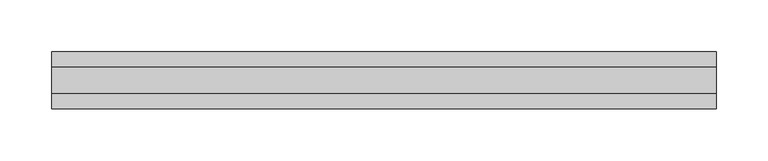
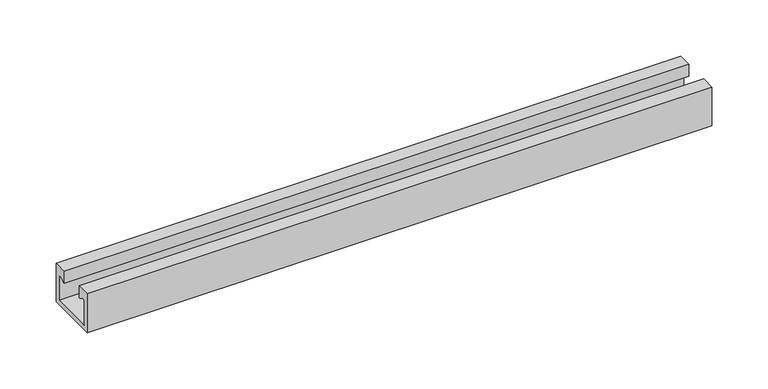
"""IFC4 building model written with IfcOpenShell, lengths in millimetres: fastener geometry, JM W JORDAHL® Mounting Channels : JM W55/42 - L."""

from ifc_helpers import new_model, si_unit, frame, origin, place, context, project, spatial, polyline, outline, extrude, source, transform, mapped, element, save


def fastener_e8fbbafe(model_context):
    return source(origin(), model_context, "Body", "SweptSolid", [
        extrude(outline(polyline([(-13.0, 42.0), (-13.0, 29.1), (-14.0, 29.1), (-19.0229473, 32.0), (-22.5, 32.0), (-22.5, 5.0), (22.5, 5.0), (22.5, 32.0), (19.0229473, 32.0), (14.0, 29.1), (13.0, 29.1), (13.0, 42.0), (27.5, 42.0), (27.5, 0.0), (-27.5, 0.0), (-27.5, 42.0), (-13.0, 42.0)])), frame((0.0, 0.0, 0.0), z_axis=(1.0, 0.0, 0.0), x_axis=(0.0, 1.0, 0.0)), (0.0, 0.0, 1.0), 640.0),
    ])


if __name__ == "__main__":
    model = new_model("IFC4")
    model_context = context("Model", 3, world=origin())
    ifc_project = project(units=[si_unit("LENGTHUNIT", "METRE", prefix="MILLI")], contexts=[model_context])
    site = spatial("IfcSite", under=ifc_project)
    building = spatial("IfcBuilding", under=site)
    placement = place(None, origin())
    fastener_shape = fastener_e8fbbafe(model_context)
    element("IfcFastener", 1, ObjectType="JM W JORDAHL® Mounting Channels : JM W55/42 - L", at=placement, inside=building, context=model_context, shape_type="MappedRepresentation", body=[
        mapped(fastener_shape, transform((0.0, 0.0, 0.0), x_axis=(1.0, 0.0, 0.0), y_axis=(0.0, 1.0, 0.0), z_axis=(0.0, 0.0, 1.0))),
    ])
    save(model, "model.ifc")
